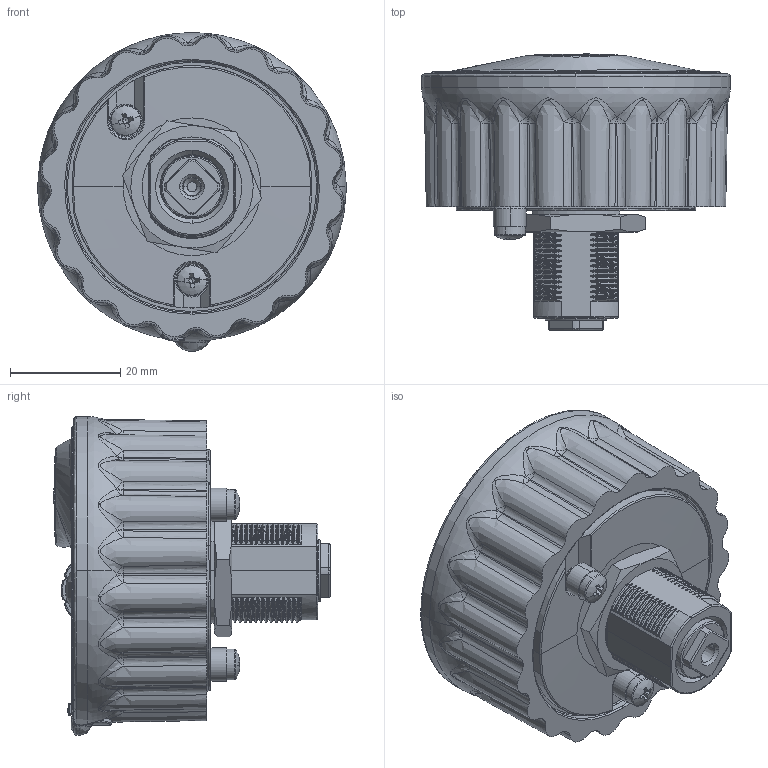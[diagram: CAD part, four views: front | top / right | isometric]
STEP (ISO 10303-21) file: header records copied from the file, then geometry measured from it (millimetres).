
FILE_DESCRIPTION (( 'STEP AP214' ), '1' );
FILE_NAME ('2800 + 9525003.STEP', '2020-10-09T08:00:23', ( '' ), ( '' ), 'SwSTEP 2.0', 'SolidWorks 2020', '' );
FILE_SCHEMA (( 'AUTOMOTIVE_DESIGN' ));
Length unit declared in the file: millimetre
Products named in the file (13): 8980203; P 6601401_formed_cap; Badge_proto; Gloss Badge Front; Code Change Button B; 8401058_1; 2800 + 9525003; pan head cross recess screw_din_DIN EN ISO 7045 - M3 x 12 - Z - 12N; 8401056_1; 8401055_1; 8719449; 9235408_1; 6620101 Shutter
Assembly tree (17 placements, depth 2):
  2800 + 9525003
    8401058_1
    8401055_1
    8401056_1
    9235408_1  x4
    Code Change Button B
    Badge_proto
    Gloss Badge Front
    P 6601401_formed_cap
    6620101 Shutter
    8980203
    pan head cross recess screw_din_DIN EN ISO 7045 - M3 x 12 - Z - 12N  x2
    8719449  x2
Bounding box: 56 x 50.13 x 57.89 mm (x, y, z)
Volume: 59124.9 mm3; surface area: 29725.1 mm2
Topology: 18 solids, 18 shells, 2682 faces, 6752 edges, 4035 vertices
Faces by surface type: bspline 1308, plane 659, cylinder 489, cone 212, torus 10, sphere 4
Entity records: 106019 total; most frequent: CARTESIAN_POINT 71225, ORIENTED_EDGE 8550, DIRECTION 4508, EDGE_CURVE 4275, VERTEX_POINT 2651, EDGE_LOOP 1784, ADVANCED_FACE 1704, FACE_OUTER_BOUND 1704
